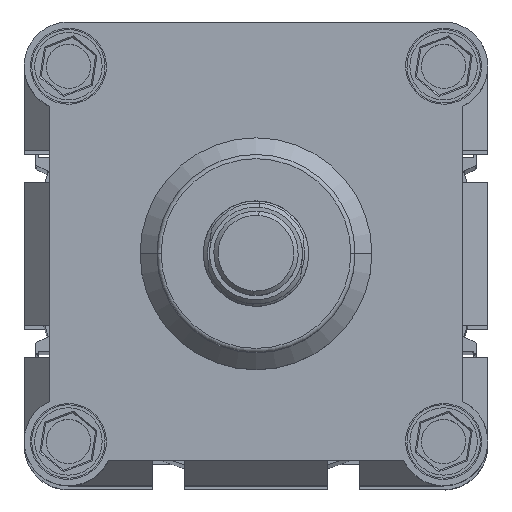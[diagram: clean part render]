
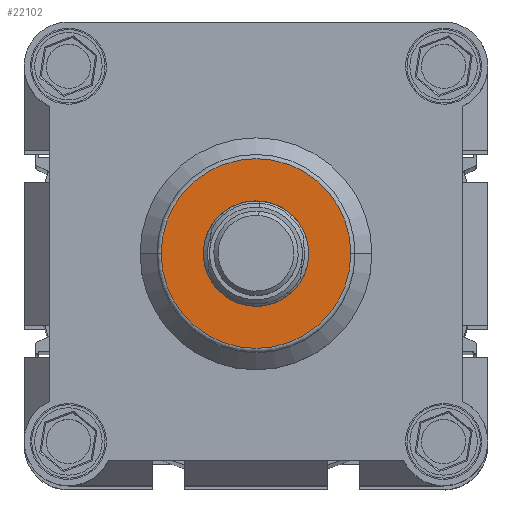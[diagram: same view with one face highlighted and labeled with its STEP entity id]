
A CAD part, top view. The second image highlights one B-rep face of the part: STEP entity #22102.
In plain terms, the highlighted planar face has unit normal (0, 0, 1).
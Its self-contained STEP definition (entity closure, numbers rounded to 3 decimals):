
#348 = PLANE ( 'NONE',  #859 ) ;
#691 = EDGE_CURVE ( 'NONE', #6098, #20370, #16397, .T. ) ;
#859 = AXIS2_PLACEMENT_3D ( 'NONE', #9228, #12834, #5358 ) ;
#1709 = EDGE_CURVE ( 'NONE', #2235, #4278, #8500, .T. ) ;
#2235 = VERTEX_POINT ( 'NONE', #22268 ) ;
#2321 = DIRECTION ( 'NONE',  ( 1., 0., 0. ) ) ;
#2577 = AXIS2_PLACEMENT_3D ( 'NONE', #20137, #9641, #11538 ) ;
#4278 = VERTEX_POINT ( 'NONE', #16072 ) ;
#4559 = FACE_BOUND ( 'NONE', #20142, .T. ) ;
#4677 = DIRECTION ( 'NONE',  ( 1., 0., 0. ) ) ;
#5358 = DIRECTION ( 'NONE',  ( 1., 0., 0. ) ) ;
#6098 = VERTEX_POINT ( 'NONE', #8305 ) ;
#6559 = CARTESIAN_POINT ( 'NONE',  ( 55., 55., 80. ) ) ;
#7557 = DIRECTION ( 'NONE',  ( 0., 0., 1. ) ) ;
#8305 = CARTESIAN_POINT ( 'NONE',  ( 67.5, 55., 80. ) ) ;
#8500 = CIRCLE ( 'NONE', #2577, 22.5 ) ;
#9228 = CARTESIAN_POINT ( 'NONE',  ( 55., 55., 80. ) ) ;
#9641 = DIRECTION ( 'NONE',  ( 0., 0., 1. ) ) ;
#11538 = DIRECTION ( 'NONE',  ( 1., 0., 0. ) ) ;
#12834 = DIRECTION ( 'NONE',  ( 0., 0., 1. ) ) ;
#14605 = EDGE_CURVE ( 'NONE', #20370, #6098, #19729, .T. ) ;
#16072 = CARTESIAN_POINT ( 'NONE',  ( 32.5, 55., 80. ) ) ;
#16256 = ORIENTED_EDGE ( 'NONE', *, *, #691, .F. ) ;
#16338 = AXIS2_PLACEMENT_3D ( 'NONE', #6559, #17037, #4677 ) ;
#16386 = CARTESIAN_POINT ( 'NONE',  ( 55., 55., 80. ) ) ;
#16397 = CIRCLE ( 'NONE', #16338, 12.5 ) ;
#16831 = ORIENTED_EDGE ( 'NONE', *, *, #1709, .T. ) ;
#17037 = DIRECTION ( 'NONE',  ( 0., 0., 1. ) ) ;
#17968 = CARTESIAN_POINT ( 'NONE',  ( 42.5, 55., 80. ) ) ;
#18035 = ORIENTED_EDGE ( 'NONE', *, *, #21786, .T. ) ;
#18282 = DIRECTION ( 'NONE',  ( 0., 0., 1. ) ) ;
#18289 = CARTESIAN_POINT ( 'NONE',  ( 55., 55., 80. ) ) ;
#18301 = EDGE_LOOP ( 'NONE', ( #16831, #18035 ) ) ;
#18681 = AXIS2_PLACEMENT_3D ( 'NONE', #18289, #7557, #21890 ) ;
#19729 = CIRCLE ( 'NONE', #22147, 12.5 ) ;
#20137 = CARTESIAN_POINT ( 'NONE',  ( 55., 55., 80. ) ) ;
#20142 = EDGE_LOOP ( 'NONE', ( #16256, #21619 ) ) ;
#20370 = VERTEX_POINT ( 'NONE', #17968 ) ;
#21619 = ORIENTED_EDGE ( 'NONE', *, *, #14605, .F. ) ;
#21786 = EDGE_CURVE ( 'NONE', #4278, #2235, #22514, .T. ) ;
#21890 = DIRECTION ( 'NONE',  ( 1., 0., 0. ) ) ;
#22102 = ADVANCED_FACE ( 'NONE', ( #4559, #22491 ), #348, .T. ) ;
#22147 = AXIS2_PLACEMENT_3D ( 'NONE', #16386, #18282, #2321 ) ;
#22268 = CARTESIAN_POINT ( 'NONE',  ( 77.5, 55., 80. ) ) ;
#22491 = FACE_OUTER_BOUND ( 'NONE', #18301, .T. ) ;
#22514 = CIRCLE ( 'NONE', #18681, 22.5 ) ;
